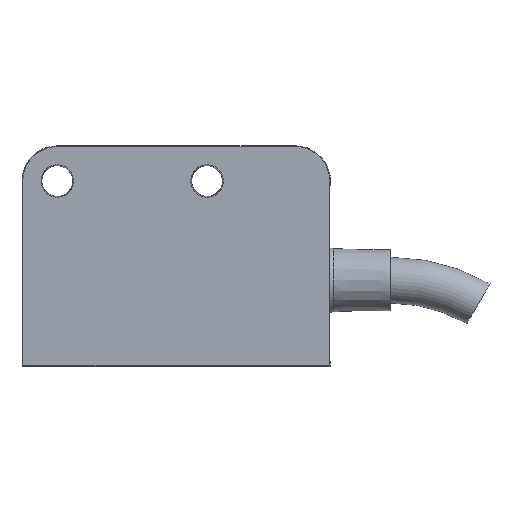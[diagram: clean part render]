
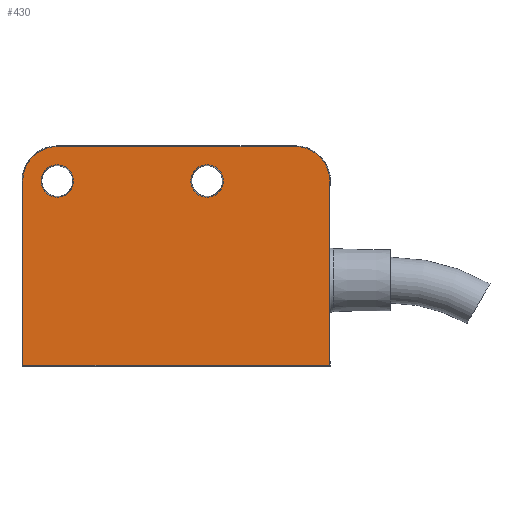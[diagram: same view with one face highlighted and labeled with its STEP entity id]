
A CAD part, top view. The second image highlights one B-rep face of the part: STEP entity #430.
In plain terms, the highlighted free-form (B-spline) face has degree [1, 1] with [2, 2] control points.
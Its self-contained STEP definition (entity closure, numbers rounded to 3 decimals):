
#351=CARTESIAN_POINT('',(-15.057,7.933,5.1));
#352=CARTESIAN_POINT('',(19.765,7.933,5.1));
#353=CARTESIAN_POINT('',(-15.057,-16.889,5.1));
#354=CARTESIAN_POINT('',(19.765,-16.889,5.1));
#355=B_SPLINE_SURFACE_WITH_KNOTS('',1,1,((#351,#353),(#352,#354)),.UNSPECIFIED.,.F.,.F.,.U.,(2,2),(2,2),(0.0,34.822),(0.0,24.822),.UNSPECIFIED.);
#356=CARTESIAN_POINT('',(19.765,4.022,5.1));
#357=VERTEX_POINT('',#356);
#358=CARTESIAN_POINT('',(15.854,7.933,5.1));
#359=VERTEX_POINT('',#358);
#360=CARTESIAN_POINT('',(15.854,4.022,5.1));
#361=DIRECTION('',(0.0,0.0,1.0));
#362=DIRECTION('',(1.0,0.0,0.0));
#363=AXIS2_PLACEMENT_3D('',#360,#361,#362);
#364=CIRCLE('',#363,3.911);
#365=EDGE_CURVE('',#357,#359,#364,.T.);
#366=ORIENTED_EDGE('',*,*,#365,.T.);
#367=CARTESIAN_POINT('',(-11.146,7.933,5.1));
#368=VERTEX_POINT('',#367);
#369=CARTESIAN_POINT('',(15.854,7.933,5.1));
#370=DIRECTION('',(-1.0,0.0,0.0));
#371=VECTOR('',#370,27.0);
#372=LINE('',#369,#371);
#373=EDGE_CURVE('',#359,#368,#372,.T.);
#374=ORIENTED_EDGE('',*,*,#373,.T.);
#375=CARTESIAN_POINT('',(-15.057,4.022,5.1));
#376=VERTEX_POINT('',#375);
#377=CARTESIAN_POINT('',(-11.146,4.022,5.1));
#378=DIRECTION('',(0.0,0.0,1.0));
#379=DIRECTION('',(0.0,1.0,0.0));
#380=AXIS2_PLACEMENT_3D('',#377,#378,#379);
#381=CIRCLE('',#380,3.911);
#382=EDGE_CURVE('',#368,#376,#381,.T.);
#383=ORIENTED_EDGE('',*,*,#382,.T.);
#384=CARTESIAN_POINT('',(-15.057,-16.889,5.1));
#385=VERTEX_POINT('',#384);
#386=CARTESIAN_POINT('',(-15.057,4.022,5.1));
#387=DIRECTION('',(0.0,-1.0,0.0));
#388=VECTOR('',#387,20.911);
#389=LINE('',#386,#388);
#390=EDGE_CURVE('',#376,#385,#389,.T.);
#391=ORIENTED_EDGE('',*,*,#390,.T.);
#392=CARTESIAN_POINT('',(19.765,-16.889,5.1));
#393=VERTEX_POINT('',#392);
#394=CARTESIAN_POINT('',(-15.057,-16.889,5.1));
#395=DIRECTION('',(1.0,0.0,0.0));
#396=VECTOR('',#395,34.822);
#397=LINE('',#394,#396);
#398=EDGE_CURVE('',#385,#393,#397,.T.);
#399=ORIENTED_EDGE('',*,*,#398,.T.);
#400=CARTESIAN_POINT('',(19.765,-16.889,5.1));
#401=DIRECTION('',(0.0,1.0,0.0));
#402=VECTOR('',#401,20.911);
#403=LINE('',#400,#402);
#404=EDGE_CURVE('',#393,#357,#403,.T.);
#405=ORIENTED_EDGE('',*,*,#404,.T.);
#406=EDGE_LOOP('',(#366,#374,#383,#391,#399,#405));
#407=FACE_OUTER_BOUND('',#406,.T.);
#408=CARTESIAN_POINT('',(7.693,4.022,5.1));
#409=VERTEX_POINT('',#408);
#410=CARTESIAN_POINT('',(5.854,4.022,5.1));
#411=DIRECTION('',(0.0,0.0,-1.0));
#412=DIRECTION('',(-1.0,0.0,0.0));
#413=AXIS2_PLACEMENT_3D('',#410,#411,#412);
#414=CIRCLE('',#413,1.839);
#415=EDGE_CURVE('',#409,#409,#414,.T.);
#416=ORIENTED_EDGE('',*,*,#415,.T.);
#417=EDGE_LOOP('',(#416));
#418=FACE_BOUND('',#417,.T.);
#419=CARTESIAN_POINT('',(-9.307,4.022,5.1));
#420=VERTEX_POINT('',#419);
#421=CARTESIAN_POINT('',(-11.146,4.022,5.1));
#422=DIRECTION('',(0.0,0.0,-1.0));
#423=DIRECTION('',(-1.0,0.0,0.0));
#424=AXIS2_PLACEMENT_3D('',#421,#422,#423);
#425=CIRCLE('',#424,1.839);
#426=EDGE_CURVE('',#420,#420,#425,.T.);
#427=ORIENTED_EDGE('',*,*,#426,.T.);
#428=EDGE_LOOP('',(#427));
#429=FACE_BOUND('',#428,.T.);
#430=ADVANCED_FACE('',(#407,#418,#429),#355,.F.);
